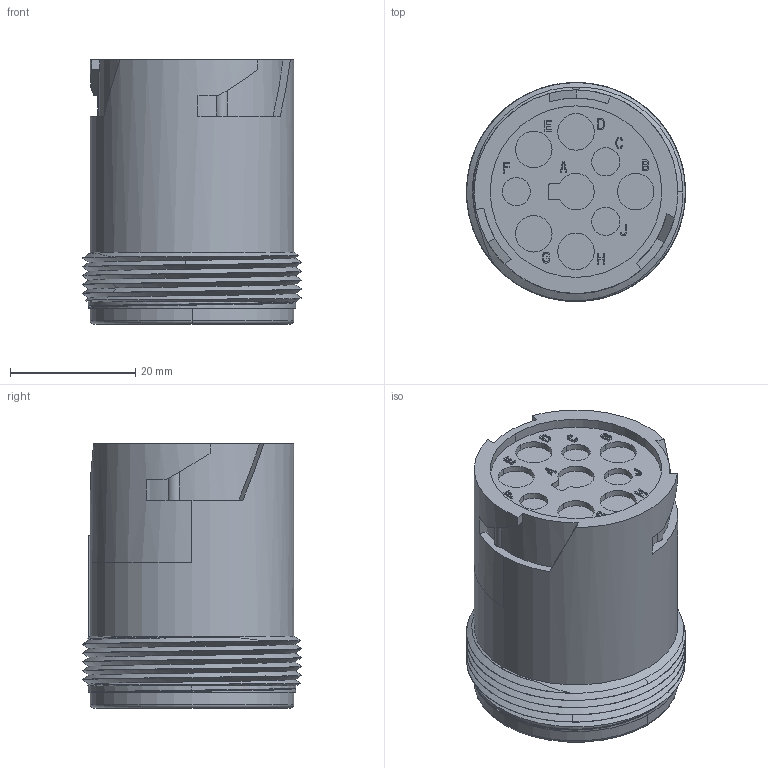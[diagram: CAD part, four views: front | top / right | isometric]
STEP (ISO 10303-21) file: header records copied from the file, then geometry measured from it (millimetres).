
FILE_DESCRIPTION((''),'2;1');
FILE_NAME('C-HD14-9-1939P-P080','2013-01-14T',('workeradm'),('Tyco Electronics Ltd.'),'PRO/ENGINEER BY PARAMETRIC TECHNOLOGY CORPORATION, 2010430','PRO/ENGINEER BY PARAMETRIC TECHNOLOGY CORPORATION, 2010430','');
FILE_SCHEMA(('AUTOMOTIVE_DESIGN { 1 0 10303 214 1 1 1 1 }'));
Length unit declared in the file: millimetre
Products named in the file (1): C-HD14-9-1939P-P080
Bounding box: 34.92 x 34.92 x 42.24 mm (x, y, z)
Volume: 33760.9 mm3; surface area: 7311.9 mm2
Topology: 1 solids, 1 shells, 412 faces, 1070 edges, 694 vertices
Faces by surface type: plane 278, cylinder 85, bspline 24, torus 20, cone 5
Entity records: 18188 total; most frequent: CARTESIAN_POINT 4566, ORIENTED_EDGE 2140, DIRECTION 2011, PRESENTATION_STYLE_ASSIGNMENT 1071, STYLED_ITEM 1071, CURVE_STYLE 1070, EDGE_CURVE 1070, VECTOR 791
